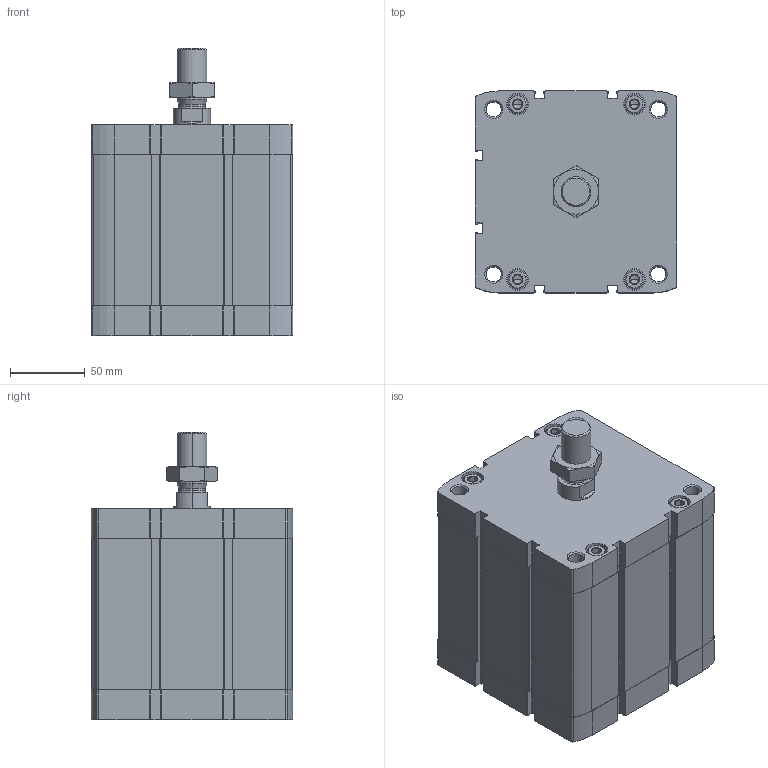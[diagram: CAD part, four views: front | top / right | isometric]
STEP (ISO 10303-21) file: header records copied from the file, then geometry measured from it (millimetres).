
FILE_DESCRIPTION (( 'STEP AP203' ), '1' );
FILE_NAME ('CCN125-60M.STEP', '2020-06-05T19:23:07', ( '' ), ( '' ), 'SwSTEP 2.0', 'SolidWorks 2019', '' );
FILE_SCHEMA (( 'CONFIG_CONTROL_DESIGN' ));
Length unit declared in the file: millimetre
Products named in the file (1): CCN125-60M
Bounding box: 134.6 x 134.6 x 192 mm (x, y, z)
Volume: 1756109.3 mm3; surface area: 256597.4 mm2
Topology: 3 solids, 3 shells, 555 faces, 1412 edges, 886 vertices
Faces by surface type: plane 275, cylinder 196, cone 80, torus 4
Entity records: 18163 total; most frequent: CARTESIAN_POINT 4452, DIRECTION 2966, ORIENTED_EDGE 2792, EDGE_CURVE 1396, AXIS2_PLACEMENT_3D 1092, VERTEX_POINT 886, VECTOR 782, LINE 782
